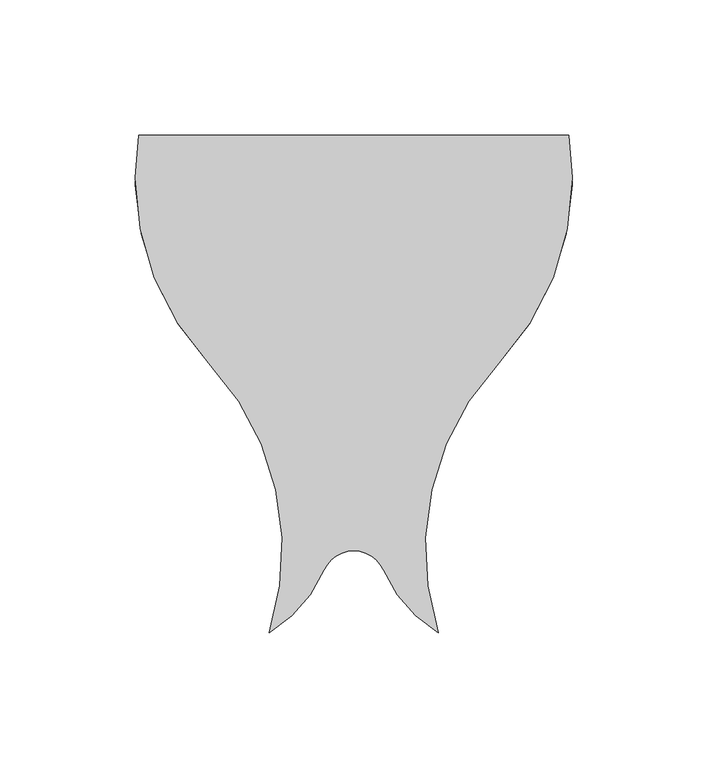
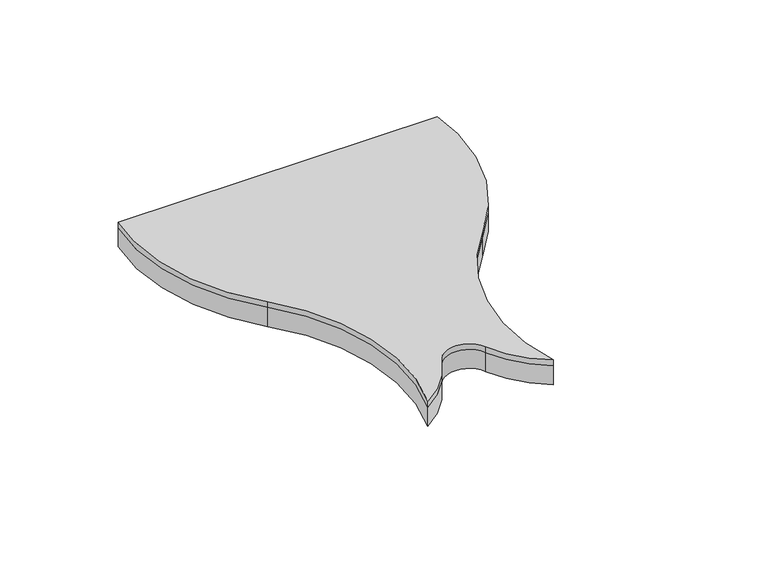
"""IFC4 building model written with IfcOpenShell, lengths in millimetres: proxy geometry, FilzFelt_Fish_Block : Fish Block."""

from ifc_helpers import new_model, si_unit, frame, origin, place, context, project, spatial, polyline, circle_curve, source, transform, mapped, element, save
from ifc_brep_helpers import plane_surface, cylinder_surface, revolved_surface, advanced_brep


def specialty_equipment_77f5260d(model_context):
    return source(origin(), model_context, "Body", "AdvancedBrep", [
        advanced_brep(
        [(53.5486457, -68.6120133, 10.0210937), (31.2619065, -168.1141956, 10.0210937), (11.0103348, -145.0347036, 10.0210937), (-11.0103348, -145.0347036, 10.0210937), (-31.2619065, -168.1141956, 10.0210937), (-53.5486457, -68.6120133, 10.0210937), (-79.4843468, 15.6533306, 10.0210937), (79.4843468, 15.6533306, 10.0210937), (-53.5486457, -68.6120133, 12.9976563), (-31.2619065, -168.1141956, 12.9976563), (-11.0103348, -145.0347036, 12.9976563), (11.0103348, -145.0347036, 12.9976563), (31.2619065, -168.1141956, 12.9976563), (53.5486457, -68.6120133, 12.9976563), (80.7142226, 0.0, 12.9976563), (79.4843468, 15.6533306, 12.9976563), (-79.4843468, 15.6533306, 12.9976563), (-80.7142226, 0.0, 12.9976563)],
        [
            (0, 1, circle_curve(frame((126.6124317, -137.2240266, 10.0210937), z_axis=(0.0, 0.0, 1.0), x_axis=(-1.0, 0.0, 0.0)), 100.2293629)),
            (1, 2, circle_curve(frame((57.9263497, -124.2921115, 10.0210937), z_axis=(0.0, 0.0, -1.0), x_axis=(-1.0, 0.0, 0.0)), 51.2968574)),
            (2, 3, circle_curve(frame((0.0, -149.9026124, 10.0210937), z_axis=(0.0, 0.0, 1.0), x_axis=(-1.0, 0.0, 0.0)), 12.0384388)),
            (3, 4, circle_curve(frame((-57.9263497, -124.2921115, 10.0210937), z_axis=(0.0, 0.0, -1.0), x_axis=(-1.0, 0.0, 0.0)), 51.2968574)),
            (4, 5, circle_curve(frame((-126.6124317, -137.2240266, 10.0210937), z_axis=(0.0, 0.0, 1.0), x_axis=(-1.0, 0.0, 0.0)), 100.2293629)),
            (5, 6, circle_curve(frame((19.5151403, 0.0, 10.0210937), z_axis=(0.0, 0.0, -1.0), x_axis=(-1.0, 0.0, 0.0)), 100.2293629)),
            (6, 7),
            (7, 0, circle_curve(frame((-19.5151403, 0.0, 10.0210937), z_axis=(0.0, 0.0, -1.0), x_axis=(-1.0, 0.0, 0.0)), 100.2293629)),
            (8, 9, circle_curve(frame((-126.6124317, -137.2240266, 12.9976563), z_axis=(0.0, 0.0, -1.0), x_axis=(-1.0, 0.0, 0.0)), 100.2293629)),
            (9, 10, circle_curve(frame((-57.9263497, -124.2921115, 12.9976563), z_axis=(0.0, 0.0, 1.0), x_axis=(-1.0, 0.0, 0.0)), 51.2968574)),
            (10, 11, circle_curve(frame((0.0, -149.9026124, 12.9976563), z_axis=(0.0, 0.0, -1.0), x_axis=(-1.0, 0.0, 0.0)), 12.0384388)),
            (11, 12, circle_curve(frame((57.9263497, -124.2921115, 12.9976563), z_axis=(0.0, 0.0, 1.0), x_axis=(-1.0, 0.0, 0.0)), 51.2968574)),
            (12, 13, circle_curve(frame((126.6124317, -137.2240266, 12.9976563), z_axis=(0.0, 0.0, -1.0), x_axis=(-1.0, 0.0, 0.0)), 100.2293629)),
            (13, 14, circle_curve(frame((-19.5151403, 0.0, 12.9976563), z_axis=(0.0, 0.0, 1.0), x_axis=(-1.0, 0.0, 0.0)), 100.2293629)),
            (14, 15, circle_curve(frame((-19.5151403, 0.0, 12.9976563), z_axis=(0.0, 0.0, 1.0), x_axis=(-1.0, 0.0, 0.0)), 100.2293629)),
            (15, 16),
            (16, 17, circle_curve(frame((19.5151403, 0.0, 12.9976563), z_axis=(0.0, 0.0, 1.0), x_axis=(-1.0, 0.0, 0.0)), 100.2293629)),
            (17, 8, circle_curve(frame((19.5151403, 0.0, 12.9976563), z_axis=(0.0, 0.0, 1.0), x_axis=(-1.0, 0.0, 0.0)), 100.2293629)),
            (13, 0),
            (7, 15),
            (12, 1),
            (11, 2),
            (10, 3),
            (9, 4),
            (8, 5),
            (16, 6),
        ],
        [
            plane_surface(frame((0.0, 0.0, 10.0210937), z_axis=(0.0, 0.0, -1.0), x_axis=(0.0, -1.0, 0.0))),
            plane_surface(frame((0.0, 0.0, 12.9976563), z_axis=(0.0, 0.0, 1.0), x_axis=(0.0, -1.0, 0.0))),
            cylinder_surface(frame((-19.5151403, 0.0, 10.0210937), z_axis=(0.0, 0.0, -1.0), x_axis=(-1.0, 0.0, 0.0)), 100.2293629),
            revolved_surface(polyline([(26.383068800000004, -137.2240266, 12.9976563), (26.383068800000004, -137.2240266, 10.0210937)]), (126.6124317, -137.2240266, 10.0210937), (0.0, 0.0, 1.0)),
            cylinder_surface(frame((57.9263497, -124.2921115, 10.0210937), z_axis=(0.0, 0.0, -1.0), x_axis=(-1.0, 0.0, 0.0)), 51.2968574),
            revolved_surface(polyline([(-12.0384388, -149.9026124, 12.9976563), (-12.0384388, -149.9026124, 10.0210937)]), (0.0, -149.9026124, 10.0210937), (0.0, 0.0, 1.0)),
            cylinder_surface(frame((-57.9263497, -124.2921115, 10.0210937), z_axis=(0.0, 0.0, -1.0), x_axis=(-1.0, 0.0, 0.0)), 51.2968574),
            revolved_surface(polyline([(-226.84179460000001, -137.2240266, 12.9976563), (-226.84179460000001, -137.2240266, 10.0210937)]), (-126.6124317, -137.2240266, 10.0210937), (0.0, 0.0, 1.0)),
            cylinder_surface(frame((19.5151403, 0.0, 10.0210937), z_axis=(0.0, 0.0, -1.0), x_axis=(-1.0, 0.0, 0.0)), 100.2293629),
            plane_surface(frame((-112.4642226, 15.6533306, 12.9976562), z_axis=(0.0, 1.0, 0.0), x_axis=(-1.0, 0.0, 0.0))),
        ],
        [
            (0, [[1, 2, 3, 4, 5, 6, 7, 8]]),
            (1, [[9, 10, 11, 12, 13, 14, 15, 16, 17, 18]]),
            (2, [[19, -8, 20, -15, -14]]),
            (3, [[-1, -19, -13, 21]]),
            (4, [[-2, -21, -12, 22]]),
            (5, [[-3, -22, -11, 23]]),
            (6, [[-4, -23, -10, 24]]),
            (7, [[-5, -24, -9, 25]]),
            (8, [[-25, -18, -17, 26, -6]]),
            (9, [[-7, -26, -16, -20]]),
        ],
    ),
        advanced_brep(
        [(31.2619065, -168.1141956, 0.0), (11.0103348, -145.0347036, 0.0), (-11.0103348, -145.0347036, 0.0), (-31.2619065, -168.1141956, 0.0), (-53.5486457, -68.6120133, 0.0), (-80.7142226, 0.0, 0.0), (-79.4843468, 15.6533306, 0.0), (79.4843468, 15.6533306, 0.0), (80.7142226, 0.0, 0.0), (53.5486457, -68.6120133, 0.0), (31.2619065, -168.1141956, 10.0210937), (53.5486457, -68.6120133, 10.0210937), (79.4843468, 15.6533306, 10.0210937), (-79.4843468, 15.6533306, 10.0210937), (-53.5486457, -68.6120133, 10.0210937), (-31.2619065, -168.1141956, 10.0210937), (-11.0103348, -145.0347036, 10.0210937), (11.0103348, -145.0347036, 10.0210937)],
        [
            (0, 1, circle_curve(frame((57.9263497, -124.2921115, 0.0), z_axis=(0.0, 0.0, -1.0), x_axis=(-1.0, 0.0, 0.0)), 51.2968574)),
            (1, 2, circle_curve(frame((0.0, -149.9026124, 0.0), z_axis=(0.0, 0.0, 1.0), x_axis=(-1.0, 0.0, 0.0)), 12.0384388)),
            (2, 3, circle_curve(frame((-57.9263497, -124.2921115, 0.0), z_axis=(0.0, 0.0, -1.0), x_axis=(-1.0, 0.0, 0.0)), 51.2968574)),
            (3, 4, circle_curve(frame((-126.6124317, -137.2240266, 0.0), z_axis=(0.0, 0.0, 1.0), x_axis=(-1.0, 0.0, 0.0)), 100.2293629)),
            (4, 5, circle_curve(frame((19.5151403, 0.0, 0.0), z_axis=(0.0, 0.0, -1.0), x_axis=(-1.0, 0.0, 0.0)), 100.2293629)),
            (5, 6, circle_curve(frame((19.5151403, 0.0, 0.0), z_axis=(0.0, 0.0, -1.0), x_axis=(-1.0, 0.0, 0.0)), 100.2293629)),
            (6, 7),
            (7, 8, circle_curve(frame((-19.5151403, 0.0, 0.0), z_axis=(0.0, 0.0, -1.0), x_axis=(-1.0, 0.0, 0.0)), 100.2293629)),
            (8, 9, circle_curve(frame((-19.5151403, 0.0, 0.0), z_axis=(0.0, 0.0, -1.0), x_axis=(-1.0, 0.0, 0.0)), 100.2293629)),
            (9, 0, circle_curve(frame((126.6124317, -137.2240266, 0.0), z_axis=(0.0, 0.0, 1.0), x_axis=(-1.0, 0.0, 0.0)), 100.2293629)),
            (10, 11, circle_curve(frame((126.6124317, -137.2240266, 10.0210937), z_axis=(0.0, 0.0, -1.0), x_axis=(-1.0, 0.0, 0.0)), 100.2293629)),
            (11, 12, circle_curve(frame((-19.5151403, 0.0, 10.0210937), z_axis=(0.0, 0.0, 1.0), x_axis=(-1.0, 0.0, 0.0)), 100.2293629)),
            (12, 13),
            (13, 14, circle_curve(frame((19.5151403, 0.0, 10.0210937), z_axis=(0.0, 0.0, 1.0), x_axis=(-1.0, 0.0, 0.0)), 100.2293629)),
            (14, 15, circle_curve(frame((-126.6124317, -137.2240266, 10.0210937), z_axis=(0.0, 0.0, -1.0), x_axis=(-1.0, 0.0, 0.0)), 100.2293629)),
            (15, 16, circle_curve(frame((-57.9263497, -124.2921115, 10.0210937), z_axis=(0.0, 0.0, 1.0), x_axis=(-1.0, 0.0, 0.0)), 51.2968574)),
            (16, 17, circle_curve(frame((0.0, -149.9026124, 10.0210937), z_axis=(0.0, 0.0, -1.0), x_axis=(-1.0, 0.0, 0.0)), 12.0384388)),
            (17, 10, circle_curve(frame((57.9263497, -124.2921115, 10.0210937), z_axis=(0.0, 0.0, 1.0), x_axis=(-1.0, 0.0, 0.0)), 51.2968574)),
            (0, 10),
            (17, 1),
            (16, 2),
            (15, 3),
            (14, 4),
            (13, 6),
            (11, 9),
            (7, 12),
        ],
        [
            plane_surface(frame((0.0, 0.0, 0.0), z_axis=(0.0, 0.0, -1.0), x_axis=(0.0, -1.0, 0.0))),
            plane_surface(frame((0.0, 0.0, 10.0210937), z_axis=(0.0, 0.0, 1.0), x_axis=(0.0, -1.0, 0.0))),
            cylinder_surface(frame((57.9263497, -124.2921115, 0.0), z_axis=(0.0, 0.0, -1.0), x_axis=(-1.0, 0.0, 0.0)), 51.2968574),
            revolved_surface(polyline([(-12.0384388, -149.9026124, 10.0210937), (-12.0384388, -149.9026124, 0.0)]), (0.0, -149.9026124, 0.0), (0.0, 0.0, 1.0)),
            cylinder_surface(frame((-57.9263497, -124.2921115, 0.0), z_axis=(0.0, 0.0, -1.0), x_axis=(-1.0, 0.0, 0.0)), 51.2968574),
            revolved_surface(polyline([(-226.84179460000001, -137.2240266, 10.0210937), (-226.84179460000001, -137.2240266, 0.0)]), (-126.6124317, -137.2240266, 0.0), (0.0, 0.0, 1.0)),
            cylinder_surface(frame((19.5151403, 0.0, 0.0), z_axis=(0.0, 0.0, -1.0), x_axis=(-1.0, 0.0, 0.0)), 100.2293629),
            cylinder_surface(frame((-19.5151403, 0.0, 0.0), z_axis=(0.0, 0.0, -1.0), x_axis=(-1.0, 0.0, 0.0)), 100.2293629),
            revolved_surface(polyline([(26.383068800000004, -137.2240266, 10.0210937), (26.383068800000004, -137.2240266, 0.0)]), (126.6124317, -137.2240266, 0.0), (0.0, 0.0, 1.0)),
            plane_surface(frame((-112.4642226, 15.6533306, 12.9976562), z_axis=(0.0, 1.0, 0.0), x_axis=(-1.0, 0.0, 0.0))),
        ],
        [
            (0, [[1, 2, 3, 4, 5, 6, 7, 8, 9, 10]]),
            (1, [[11, 12, 13, 14, 15, 16, 17, 18]]),
            (2, [[-1, 19, -18, 20]]),
            (3, [[-2, -20, -17, 21]]),
            (4, [[-3, -21, -16, 22]]),
            (5, [[-4, -22, -15, 23]]),
            (6, [[-23, -14, 24, -6, -5]]),
            (7, [[25, -9, -8, 26, -12]]),
            (8, [[-10, -25, -11, -19]]),
            (9, [[-7, -24, -13, -26]]),
        ],
    ),
    ])


if __name__ == "__main__":
    model = new_model("IFC4")
    model_context = context("Model", 3, world=origin())
    ifc_project = project(units=[si_unit("LENGTHUNIT", "METRE", prefix="MILLI")], contexts=[model_context])
    site = spatial("IfcSite", under=ifc_project)
    building = spatial("IfcBuilding", under=site)
    placement = place(None, origin())
    specialty_equipment_shape = specialty_equipment_77f5260d(model_context)
    element("IfcBuildingElementProxy", 1, Name="FilzFelt_Fish_Block : Fish Block", ObjectType="FilzFelt_Fish_Block : Fish Block", at=placement, inside=building, context=model_context, shape_type="MappedRepresentation", body=[
        mapped(specialty_equipment_shape, transform((0.0, 0.0, 0.0), x_axis=(1.0, 0.0, 0.0), y_axis=(0.0, 1.0, 0.0), z_axis=(0.0, 0.0, 1.0))),
    ])
    save(model, "model.ifc")
